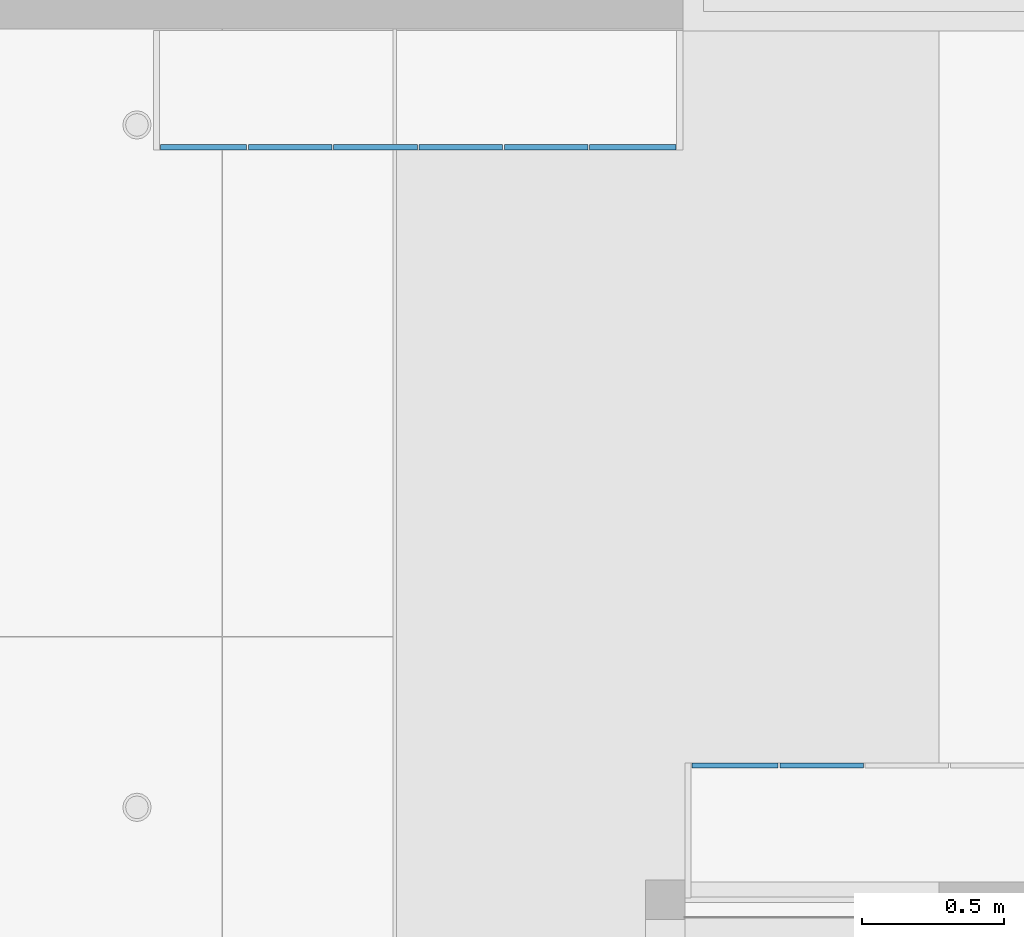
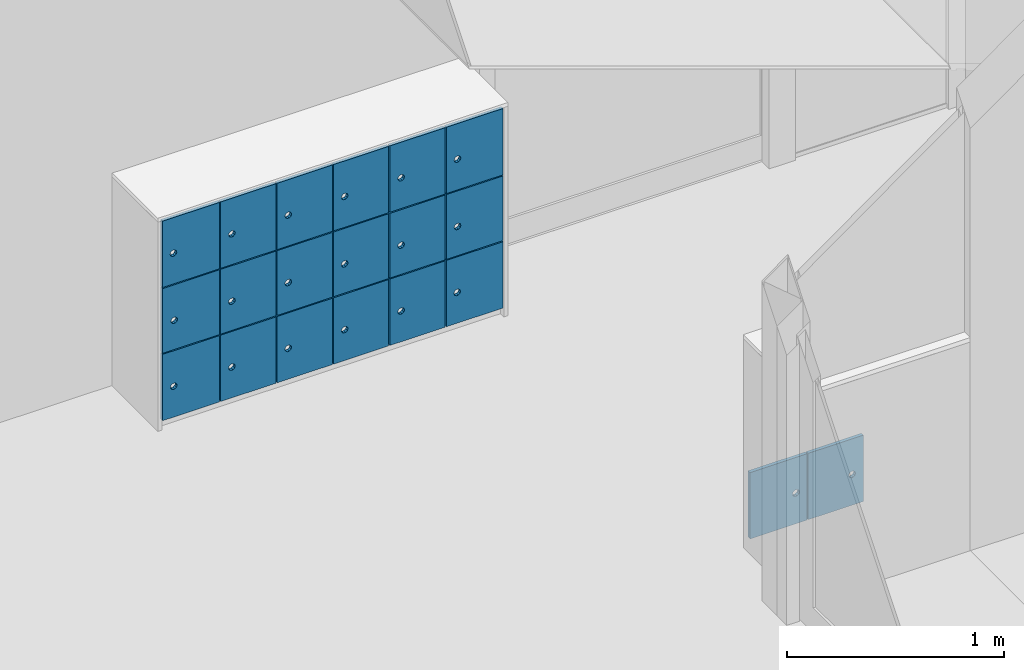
# One storey, part 146 of 347: 20 building element parts, 2 elements without a shape of their own.
"""IFC2X3 building model written with IfcOpenShell, lengths in millimetres."""

from ifc_helpers import new_model, entity, si_unit, converted_unit, derived_unit, money_unit, direction, frame, origin_with_axes, place, context, subcontext, project, spatial, faceted_brep, material, type_object, element, aggregate, save


model = new_model("IFC2X3")

# Units and contexts
model_context = context("Model", 3, precision=0.01, world=origin_with_axes(), true_north=direction((0.0, 1.0)))
plan_context = context("Plan", 3, precision=0.01, world=origin_with_axes(), true_north=direction((0.0, 1.0)))
body_context = subcontext(model_context, "Body", "Model", "MODEL_VIEW")
ifc_project = project(units=[si_unit("LENGTHUNIT", "METRE", prefix="MILLI"), si_unit("AREAUNIT", "SQUARE_METRE"), si_unit("VOLUMEUNIT", "CUBIC_METRE"), converted_unit("PLANEANGLEUNIT", "DEGREE", entity("IfcPlaneAngleMeasure", 0.0174532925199), si_unit("PLANEANGLEUNIT", "RADIAN"), dimensions=[0, 0, 0, 0, 0, 0, 0]), money_unit("EUR"), converted_unit("TIMEUNIT", "Year", entity("IfcTimeMeasure", 31556926.0), si_unit("TIMEUNIT", "SECOND"), dimensions=[0, 0, 1, 0, 0, 0, 0]), si_unit("MASSUNIT", "GRAM", prefix="KILO"), si_unit("THERMODYNAMICTEMPERATUREUNIT", "DEGREE_CELSIUS"), si_unit("LUMINOUSINTENSITYUNIT", "LUMEN"), si_unit("ENERGYUNIT", "JOULE", prefix="MEGA"), derived_unit("THERMALCONDUCTANCEUNIT", [(si_unit("POWERUNIT", "WATT"), 1), (si_unit("LENGTHUNIT", "METRE"), -1), (si_unit("THERMODYNAMICTEMPERATUREUNIT", "KELVIN"), -1)]), derived_unit("SPECIFICHEATCAPACITYUNIT", [(si_unit("ENERGYUNIT", "JOULE"), 1), (si_unit("MASSUNIT", "GRAM", prefix="KILO"), -1), (si_unit("THERMODYNAMICTEMPERATUREUNIT", "KELVIN"), -1)]), derived_unit("MASSDENSITYUNIT", [(si_unit("MASSUNIT", "GRAM", prefix="KILO"), 1), (si_unit("VOLUMEUNIT", "CUBIC_METRE"), -1)])], contexts=[model_context, plan_context])

# Site, building, storey
site_placement = place(None, origin_with_axes())
site = spatial("IfcSite", under=ifc_project, at=site_placement, Name="Site", CompositionType="ELEMENT")
building_placement = place(site_placement, origin_with_axes())
building = spatial("IfcBuilding", under=site, at=building_placement, Name="Naam gebouw", CompositionType="ELEMENT")
storey_placement = place(building_placement, origin_with_axes())
storey = spatial("IfcBuildingStorey", under=building, at=storey_placement, Name="begane grond", CompositionType="ELEMENT", Elevation=0.0)

# Beam, building element parts
beam_type_1 = type_object("IfcBeamType", Name="VI Garderobe 06 1812 x 1122", PredefinedType="BEAM")
beam_1_placement = place(storey_placement, frame((46213.0, 38537.5, 0.0), z_axis=(0.0, 0.0, 1.0), x_axis=(1.0, 0.0, 0.0)))
beam_1 = element("IfcBeam", 1, at=beam_1_placement, inside=storey, type_object=beam_type_1, Name="28_Balk-x", ObjectType="BEAM")
ifc_material = material(Name="Hout - Lockers")
building_element_part_1_placement = place(beam_1_placement, origin_with_axes())
building_element_part_1 = element("IfcBuildingElementPart", 2, at=building_element_part_1_placement, material=ifc_material, Name="Hout - Lockers", context=body_context, shape_type="Brep", body=[
    faceted_brep([(1534.0, 18.0, 1175.0), (1534.0, 18.0, 802.0), (1534.0, 0.0, 802.0), (1534.0, 0.0, 1175.0), (1837.0, 18.0, 1175.0), (1837.0, 18.0, 802.0), (1612.0, 18.0, 975.0), (1608.5623059, 18.0, 985.580134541), (1599.5623059, 18.0, 992.119017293), (1588.4376941, 18.0, 992.119017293), (1579.4376941, 18.0, 985.580134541), (1576.0, 18.0, 975.0), (1579.4376941, 18.0, 964.419865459), (1588.4376941, 18.0, 957.880982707), (1599.5623059, 18.0, 957.880982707), (1608.5623059, 18.0, 964.419865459), (1837.0, 0.0, 802.0), (1837.0, 0.0, 1175.0), (1612.0, 0.0, 975.0), (1608.5623059, 0.0, 964.419865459), (1599.5623059, 0.0, 957.880982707), (1588.4376941, 0.0, 957.880982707), (1579.4376941, 0.0, 964.419865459), (1576.0, 0.0, 975.0), (1579.4376941, 0.0, 985.580134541), (1588.4376941, 0.0, 992.119017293), (1599.5623059, 0.0, 992.119017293), (1608.5623059, 0.0, 985.580134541)], [[[0, 1, 2, 3]], [[0, 4, 5, 1], [6, 7, 8, 9, 10, 11, 12, 13, 14, 15]], [[1, 5, 16, 2]], [[3, 2, 16, 17], [18, 19, 20, 21, 22, 23, 24, 25, 26, 27]], [[4, 0, 3, 17]], [[5, 4, 17, 16]], [[7, 6, 18, 27]], [[8, 7, 27, 26]], [[9, 8, 26, 25]], [[10, 9, 25, 24]], [[11, 10, 24, 23]], [[12, 11, 23, 22]], [[13, 12, 22, 21]], [[14, 13, 21, 20]], [[15, 14, 20, 19]], [[6, 15, 19, 18]]]),
])
building_element_part_2_placement = place(beam_1_placement, origin_with_axes())
building_element_part_2 = element("IfcBuildingElementPart", 3, at=building_element_part_2_placement, material=ifc_material, Name="Hout - Lockers", context=body_context, shape_type="Brep", body=[
    faceted_brep([(1234.0, 18.0, 1175.0), (1234.0, 18.0, 802.0), (1234.0, 0.0, 802.0), (1234.0, 0.0, 1175.0), (1528.0, 18.0, 1175.0), (1528.0, 18.0, 802.0), (1312.0, 18.0, 975.0), (1308.5623059, 18.0, 985.580134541), (1299.5623059, 18.0, 992.119017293), (1288.4376941, 18.0, 992.119017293), (1279.4376941, 18.0, 985.580134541), (1276.0, 18.0, 975.0), (1279.4376941, 18.0, 964.419865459), (1288.4376941, 18.0, 957.880982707), (1299.5623059, 18.0, 957.880982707), (1308.5623059, 18.0, 964.419865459), (1528.0, 0.0, 802.0), (1528.0, 0.0, 1175.0), (1312.0, 0.0, 975.0), (1308.5623059, 0.0, 964.419865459), (1299.5623059, 0.0, 957.880982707), (1288.4376941, 0.0, 957.880982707), (1279.4376941, 0.0, 964.419865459), (1276.0, 0.0, 975.0), (1279.4376941, 0.0, 985.580134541), (1288.4376941, 0.0, 992.119017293), (1299.5623059, 0.0, 992.119017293), (1308.5623059, 0.0, 985.580134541)], [[[0, 1, 2, 3]], [[0, 4, 5, 1], [6, 7, 8, 9, 10, 11, 12, 13, 14, 15]], [[1, 5, 16, 2]], [[3, 2, 16, 17], [18, 19, 20, 21, 22, 23, 24, 25, 26, 27]], [[4, 0, 3, 17]], [[5, 4, 17, 16]], [[7, 6, 18, 27]], [[8, 7, 27, 26]], [[9, 8, 26, 25]], [[10, 9, 25, 24]], [[11, 10, 24, 23]], [[12, 11, 23, 22]], [[13, 12, 22, 21]], [[14, 13, 21, 20]], [[15, 14, 20, 19]], [[6, 15, 19, 18]]]),
])
building_element_part_3_placement = place(beam_1_placement, origin_with_axes())
building_element_part_3 = element("IfcBuildingElementPart", 4, at=building_element_part_3_placement, material=ifc_material, Name="Hout - Lockers", context=body_context, shape_type="Brep", body=[
    faceted_brep([(1534.0, 18.0, 796.0), (1534.0, 18.0, 432.0), (1534.0, 0.0, 432.0), (1534.0, 0.0, 796.0), (1837.0, 18.0, 796.0), (1837.0, 18.0, 432.0), (1612.0, 18.0, 596.0), (1608.5623059, 18.0, 606.580134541), (1599.5623059, 18.0, 613.119017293), (1588.4376941, 18.0, 613.119017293), (1579.4376941, 18.0, 606.580134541), (1576.0, 18.0, 596.0), (1579.4376941, 18.0, 585.419865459), (1588.4376941, 18.0, 578.880982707), (1599.5623059, 18.0, 578.880982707), (1608.5623059, 18.0, 585.419865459), (1837.0, 0.0, 432.0), (1837.0, 0.0, 796.0), (1612.0, 0.0, 596.0), (1608.5623059, 0.0, 585.419865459), (1599.5623059, 0.0, 578.880982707), (1588.4376941, 0.0, 578.880982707), (1579.4376941, 0.0, 585.419865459), (1576.0, 0.0, 596.0), (1579.4376941, 0.0, 606.580134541), (1588.4376941, 0.0, 613.119017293), (1599.5623059, 0.0, 613.119017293), (1608.5623059, 0.0, 606.580134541)], [[[0, 1, 2, 3]], [[0, 4, 5, 1], [6, 7, 8, 9, 10, 11, 12, 13, 14, 15]], [[1, 5, 16, 2]], [[3, 2, 16, 17], [18, 19, 20, 21, 22, 23, 24, 25, 26, 27]], [[4, 0, 3, 17]], [[5, 4, 17, 16]], [[7, 6, 18, 27]], [[8, 7, 27, 26]], [[9, 8, 26, 25]], [[10, 9, 25, 24]], [[11, 10, 24, 23]], [[12, 11, 23, 22]], [[13, 12, 22, 21]], [[14, 13, 21, 20]], [[15, 14, 20, 19]], [[6, 15, 19, 18]]]),
])
building_element_part_4_placement = place(beam_1_placement, origin_with_axes())
building_element_part_4 = element("IfcBuildingElementPart", 5, at=building_element_part_4_placement, material=ifc_material, Name="Hout - Lockers", context=body_context, shape_type="Brep", body=[
    faceted_brep([(1234.0, 18.0, 796.0), (1234.0, 18.0, 432.0), (1234.0, 0.0, 432.0), (1234.0, 0.0, 796.0), (1528.0, 18.0, 796.0), (1528.0, 18.0, 432.0), (1312.0, 18.0, 596.0), (1308.5623059, 18.0, 606.580134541), (1299.5623059, 18.0, 613.119017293), (1288.4376941, 18.0, 613.119017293), (1279.4376941, 18.0, 606.580134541), (1276.0, 18.0, 596.0), (1279.4376941, 18.0, 585.419865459), (1288.4376941, 18.0, 578.880982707), (1299.5623059, 18.0, 578.880982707), (1308.5623059, 18.0, 585.419865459), (1528.0, 0.0, 432.0), (1528.0, 0.0, 796.0), (1312.0, 0.0, 596.0), (1308.5623059, 0.0, 585.419865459), (1299.5623059, 0.0, 578.880982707), (1288.4376941, 0.0, 578.880982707), (1279.4376941, 0.0, 585.419865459), (1276.0, 0.0, 596.0), (1279.4376941, 0.0, 606.580134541), (1288.4376941, 0.0, 613.119017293), (1299.5623059, 0.0, 613.119017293), (1308.5623059, 0.0, 606.580134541)], [[[0, 1, 2, 3]], [[0, 4, 5, 1], [6, 7, 8, 9, 10, 11, 12, 13, 14, 15]], [[1, 5, 16, 2]], [[3, 2, 16, 17], [18, 19, 20, 21, 22, 23, 24, 25, 26, 27]], [[4, 0, 3, 17]], [[5, 4, 17, 16]], [[7, 6, 18, 27]], [[8, 7, 27, 26]], [[9, 8, 26, 25]], [[10, 9, 25, 24]], [[11, 10, 24, 23]], [[12, 11, 23, 22]], [[13, 12, 22, 21]], [[14, 13, 21, 20]], [[15, 14, 20, 19]], [[6, 15, 19, 18]]]),
])
building_element_part_5_placement = place(beam_1_placement, origin_with_axes())
building_element_part_5 = element("IfcBuildingElementPart", 6, at=building_element_part_5_placement, material=ifc_material, Name="Hout - Lockers", context=body_context, shape_type="Brep", body=[
    faceted_brep([(1534.0, 18.0, 426.0), (1534.0, 18.0, 53.0), (1534.0, 0.0, 53.0), (1534.0, 0.0, 426.0), (1837.0, 18.0, 426.0), (1837.0, 18.0, 53.0), (1610.5992825, 18.0, 226.009810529), (1607.1615884, 18.0, 236.58994507), (1598.1615884, 18.0, 243.128827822), (1587.0369766, 18.0, 243.128827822), (1578.0369766, 18.0, 236.58994507), (1574.5992825, 18.0, 226.009810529), (1578.0369766, 18.0, 215.429675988), (1587.0369766, 18.0, 208.890793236), (1598.1615884, 18.0, 208.890793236), (1607.1615884, 18.0, 215.429675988), (1837.0, 0.0, 53.0), (1837.0, 0.0, 426.0), (1610.5992825, 0.0, 226.009810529), (1607.1615884, 0.0, 215.429675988), (1598.1615884, 0.0, 208.890793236), (1587.0369766, 0.0, 208.890793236), (1578.0369766, 0.0, 215.429675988), (1574.5992825, 0.0, 226.009810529), (1578.0369766, 0.0, 236.58994507), (1587.0369766, 0.0, 243.128827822), (1598.1615884, 0.0, 243.128827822), (1607.1615884, 0.0, 236.58994507)], [[[0, 1, 2, 3]], [[0, 4, 5, 1], [6, 7, 8, 9, 10, 11, 12, 13, 14, 15]], [[1, 5, 16, 2]], [[3, 2, 16, 17], [18, 19, 20, 21, 22, 23, 24, 25, 26, 27]], [[4, 0, 3, 17]], [[5, 4, 17, 16]], [[7, 6, 18, 27]], [[8, 7, 27, 26]], [[9, 8, 26, 25]], [[10, 9, 25, 24]], [[11, 10, 24, 23]], [[12, 11, 23, 22]], [[13, 12, 22, 21]], [[14, 13, 21, 20]], [[15, 14, 20, 19]], [[6, 15, 19, 18]]]),
])
building_element_part_6_placement = place(beam_1_placement, origin_with_axes())
building_element_part_6 = element("IfcBuildingElementPart", 7, at=building_element_part_6_placement, material=ifc_material, Name="Hout - Lockers", context=body_context, shape_type="Brep", body=[
    faceted_brep([(1234.0, 18.0, 426.0), (1234.0, 18.0, 53.0), (1234.0, 0.0, 53.0), (1234.0, 0.0, 426.0), (1528.0, 18.0, 426.0), (1528.0, 18.0, 53.0), (1312.0, 18.0, 226.0), (1308.5623059, 18.0, 236.580134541), (1299.5623059, 18.0, 243.119017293), (1288.4376941, 18.0, 243.119017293), (1279.4376941, 18.0, 236.580134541), (1276.0, 18.0, 226.0), (1279.4376941, 18.0, 215.419865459), (1288.4376941, 18.0, 208.880982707), (1299.5623059, 18.0, 208.880982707), (1308.5623059, 18.0, 215.419865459), (1528.0, 0.0, 53.0), (1528.0, 0.0, 426.0), (1312.0, 0.0, 226.0), (1308.5623059, 0.0, 215.419865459), (1299.5623059, 0.0, 208.880982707), (1288.4376941, 0.0, 208.880982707), (1279.4376941, 0.0, 215.419865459), (1276.0, 0.0, 226.0), (1279.4376941, 0.0, 236.580134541), (1288.4376941, 0.0, 243.119017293), (1299.5623059, 0.0, 243.119017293), (1308.5623059, 0.0, 236.580134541)], [[[0, 1, 2, 3]], [[0, 4, 5, 1], [6, 7, 8, 9, 10, 11, 12, 13, 14, 15]], [[1, 5, 16, 2]], [[3, 2, 16, 17], [18, 19, 20, 21, 22, 23, 24, 25, 26, 27]], [[4, 0, 3, 17]], [[5, 4, 17, 16]], [[7, 6, 18, 27]], [[8, 7, 27, 26]], [[9, 8, 26, 25]], [[10, 9, 25, 24]], [[11, 10, 24, 23]], [[12, 11, 23, 22]], [[13, 12, 22, 21]], [[14, 13, 21, 20]], [[15, 14, 20, 19]], [[6, 15, 19, 18]]]),
])
building_element_part_7_placement = place(beam_1_placement, origin_with_axes())
building_element_part_7 = element("IfcBuildingElementPart", 8, at=building_element_part_7_placement, material=ifc_material, Name="Hout - Lockers", context=body_context, shape_type="Brep", body=[
    faceted_brep([(25.0, 18.0, 1175.0), (25.0, 18.0, 802.0), (25.0, 0.0, 802.0), (25.0, 0.0, 1175.0), (328.0, 18.0, 1175.0), (328.0, 18.0, 802.0), (101.202576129, 18.0, 975.016154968), (97.7648820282, 18.0, 985.596289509), (88.7648820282, 18.0, 992.135172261), (77.6402702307, 18.0, 992.135172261), (68.6402702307, 18.0, 985.596289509), (65.2025761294, 18.0, 975.016154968), (68.6402702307, 18.0, 964.436020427), (77.6402702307, 18.0, 957.897137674), (88.7648820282, 18.0, 957.897137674), (97.7648820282, 18.0, 964.436020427), (328.0, 0.0, 802.0), (328.0, 0.0, 1175.0), (101.202576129, 0.0, 975.016154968), (97.7648820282, 0.0, 964.436020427), (88.7648820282, 0.0, 957.897137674), (77.6402702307, 0.0, 957.897137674), (68.6402702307, 0.0, 964.436020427), (65.2025761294, 0.0, 975.016154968), (68.6402702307, 0.0, 985.596289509), (77.6402702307, 0.0, 992.135172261), (88.7648820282, 0.0, 992.135172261), (97.7648820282, 0.0, 985.596289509)], [[[0, 1, 2, 3]], [[0, 4, 5, 1], [6, 7, 8, 9, 10, 11, 12, 13, 14, 15]], [[1, 5, 16, 2]], [[3, 2, 16, 17], [18, 19, 20, 21, 22, 23, 24, 25, 26, 27]], [[4, 0, 3, 17]], [[5, 4, 17, 16]], [[7, 6, 18, 27]], [[8, 7, 27, 26]], [[9, 8, 26, 25]], [[10, 9, 25, 24]], [[11, 10, 24, 23]], [[12, 11, 23, 22]], [[13, 12, 22, 21]], [[14, 13, 21, 20]], [[15, 14, 20, 19]], [[6, 15, 19, 18]]]),
])
building_element_part_8_placement = place(beam_1_placement, origin_with_axes())
building_element_part_8 = element("IfcBuildingElementPart", 9, at=building_element_part_8_placement, material=ifc_material, Name="Hout - Lockers", context=body_context, shape_type="Brep", body=[
    faceted_brep([(25.0, 18.0, 796.0), (25.0, 18.0, 432.0), (25.0, 0.0, 432.0), (25.0, 0.0, 796.0), (328.0, 18.0, 796.0), (328.0, 18.0, 432.0), (69.5601698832, 18.0, 596.032777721), (72.9978639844, 18.0, 585.45264318), (81.9978639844, 18.0, 578.913760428), (93.1224757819, 18.0, 578.913760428), (102.122475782, 18.0, 585.45264318), (105.560169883, 18.0, 596.032777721), (102.122475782, 18.0, 606.612912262), (93.1224757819, 18.0, 613.151795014), (81.9978639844, 18.0, 613.151795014), (72.9978639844, 18.0, 606.612912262), (328.0, 0.0, 432.0), (328.0, 0.0, 796.0), (69.5601698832, 0.0, 596.032777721), (72.9978639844, 0.0, 606.612912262), (81.9978639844, 0.0, 613.151795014), (93.1224757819, 0.0, 613.151795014), (102.122475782, 0.0, 606.612912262), (105.560169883, 0.0, 596.032777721), (102.122475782, 0.0, 585.45264318), (93.1224757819, 0.0, 578.913760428), (81.9978639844, 0.0, 578.913760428), (72.9978639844, 0.0, 585.45264318)], [[[0, 1, 2, 3]], [[0, 4, 5, 1], [6, 7, 8, 9, 10, 11, 12, 13, 14, 15]], [[1, 5, 16, 2]], [[3, 2, 16, 17], [18, 19, 20, 21, 22, 23, 24, 25, 26, 27]], [[4, 0, 3, 17]], [[5, 4, 17, 16]], [[7, 6, 18, 27]], [[8, 7, 27, 26]], [[9, 8, 26, 25]], [[10, 9, 25, 24]], [[11, 10, 24, 23]], [[12, 11, 23, 22]], [[13, 12, 22, 21]], [[14, 13, 21, 20]], [[15, 14, 20, 19]], [[6, 15, 19, 18]]]),
])
building_element_part_9_placement = place(beam_1_placement, origin_with_axes())
building_element_part_9 = element("IfcBuildingElementPart", 10, at=building_element_part_9_placement, material=ifc_material, Name="Hout - Lockers", context=body_context, shape_type="Brep", body=[
    faceted_brep([(25.0, 18.0, 426.0), (25.0, 18.0, 53.0), (25.0, 0.0, 53.0), (25.0, 0.0, 426.0), (328.0, 18.0, 426.0), (328.0, 18.0, 53.0), (103.0, 18.0, 226.0), (99.5623058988, 18.0, 236.580134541), (90.5623058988, 18.0, 243.119017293), (79.4376941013, 18.0, 243.119017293), (70.4376941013, 18.0, 236.580134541), (67.0, 18.0, 226.0), (70.4376941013, 18.0, 215.419865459), (79.4376941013, 18.0, 208.880982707), (90.5623058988, 18.0, 208.880982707), (99.5623058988, 18.0, 215.419865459), (328.0, 0.0, 53.0), (328.0, 0.0, 426.0), (103.0, 0.0, 226.0), (99.5623058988, 0.0, 215.419865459), (90.5623058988, 0.0, 208.880982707), (79.4376941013, 0.0, 208.880982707), (70.4376941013, 0.0, 215.419865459), (67.0, 0.0, 226.0), (70.4376941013, 0.0, 236.580134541), (79.4376941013, 0.0, 243.119017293), (90.5623058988, 0.0, 243.119017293), (99.5623058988, 0.0, 236.580134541)], [[[0, 1, 2, 3]], [[0, 4, 5, 1], [6, 7, 8, 9, 10, 11, 12, 13, 14, 15]], [[1, 5, 16, 2]], [[3, 2, 16, 17], [18, 19, 20, 21, 22, 23, 24, 25, 26, 27]], [[4, 0, 3, 17]], [[5, 4, 17, 16]], [[7, 6, 18, 27]], [[8, 7, 27, 26]], [[9, 8, 26, 25]], [[10, 9, 25, 24]], [[11, 10, 24, 23]], [[12, 11, 23, 22]], [[13, 12, 22, 21]], [[14, 13, 21, 20]], [[15, 14, 20, 19]], [[6, 15, 19, 18]]]),
])
building_element_part_10_placement = place(beam_1_placement, origin_with_axes())
building_element_part_10 = element("IfcBuildingElementPart", 11, at=building_element_part_10_placement, material=ifc_material, Name="Hout - Lockers", context=body_context, shape_type="Brep", body=[
    faceted_brep([(934.0, 18.0, 1175.0), (934.0, 18.0, 802.0), (934.0, 0.0, 802.0), (934.0, 0.0, 1175.0), (1228.0, 18.0, 1175.0), (1228.0, 18.0, 802.0), (1012.0, 18.0, 975.0), (1008.5623059, 18.0, 985.580134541), (999.562305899, 18.0, 992.119017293), (988.437694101, 18.0, 992.119017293), (979.437694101, 18.0, 985.580134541), (976.0, 18.0, 975.0), (979.437694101, 18.0, 964.419865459), (988.437694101, 18.0, 957.880982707), (999.562305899, 18.0, 957.880982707), (1008.5623059, 18.0, 964.419865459), (1228.0, 0.0, 802.0), (1228.0, 0.0, 1175.0), (1012.0, 0.0, 975.0), (1008.5623059, 0.0, 964.419865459), (999.562305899, 0.0, 957.880982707), (988.437694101, 0.0, 957.880982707), (979.437694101, 0.0, 964.419865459), (976.0, 0.0, 975.0), (979.437694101, 0.0, 985.580134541), (988.437694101, 0.0, 992.119017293), (999.562305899, 0.0, 992.119017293), (1008.5623059, 0.0, 985.580134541)], [[[0, 1, 2, 3]], [[0, 4, 5, 1], [6, 7, 8, 9, 10, 11, 12, 13, 14, 15]], [[1, 5, 16, 2]], [[3, 2, 16, 17], [18, 19, 20, 21, 22, 23, 24, 25, 26, 27]], [[4, 0, 3, 17]], [[5, 4, 17, 16]], [[7, 6, 18, 27]], [[8, 7, 27, 26]], [[9, 8, 26, 25]], [[10, 9, 25, 24]], [[11, 10, 24, 23]], [[12, 11, 23, 22]], [[13, 12, 22, 21]], [[14, 13, 21, 20]], [[15, 14, 20, 19]], [[6, 15, 19, 18]]]),
])
building_element_part_11_placement = place(beam_1_placement, origin_with_axes())
building_element_part_11 = element("IfcBuildingElementPart", 12, at=building_element_part_11_placement, material=ifc_material, Name="Hout - Lockers", context=body_context, shape_type="Brep", body=[
    faceted_brep([(934.0, 18.0, 796.0), (934.0, 18.0, 432.0), (934.0, 0.0, 432.0), (934.0, 0.0, 796.0), (1228.0, 18.0, 796.0), (1228.0, 18.0, 432.0), (1012.0, 18.0, 596.0), (1008.5623059, 18.0, 606.580134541), (999.562305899, 18.0, 613.119017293), (988.437694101, 18.0, 613.119017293), (979.437694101, 18.0, 606.580134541), (976.0, 18.0, 596.0), (979.437694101, 18.0, 585.419865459), (988.437694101, 18.0, 578.880982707), (999.562305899, 18.0, 578.880982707), (1008.5623059, 18.0, 585.419865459), (1228.0, 0.0, 432.0), (1228.0, 0.0, 796.0), (1012.0, 0.0, 596.0), (1008.5623059, 0.0, 585.419865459), (999.562305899, 0.0, 578.880982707), (988.437694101, 0.0, 578.880982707), (979.437694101, 0.0, 585.419865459), (976.0, 0.0, 596.0), (979.437694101, 0.0, 606.580134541), (988.437694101, 0.0, 613.119017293), (999.562305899, 0.0, 613.119017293), (1008.5623059, 0.0, 606.580134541)], [[[0, 1, 2, 3]], [[0, 4, 5, 1], [6, 7, 8, 9, 10, 11, 12, 13, 14, 15]], [[1, 5, 16, 2]], [[3, 2, 16, 17], [18, 19, 20, 21, 22, 23, 24, 25, 26, 27]], [[4, 0, 3, 17]], [[5, 4, 17, 16]], [[7, 6, 18, 27]], [[8, 7, 27, 26]], [[9, 8, 26, 25]], [[10, 9, 25, 24]], [[11, 10, 24, 23]], [[12, 11, 23, 22]], [[13, 12, 22, 21]], [[14, 13, 21, 20]], [[15, 14, 20, 19]], [[6, 15, 19, 18]]]),
])
building_element_part_12_placement = place(beam_1_placement, origin_with_axes())
building_element_part_12 = element("IfcBuildingElementPart", 13, at=building_element_part_12_placement, material=ifc_material, Name="Hout - Lockers", context=body_context, shape_type="Brep", body=[
    faceted_brep([(934.0, 18.0, 426.0), (934.0, 18.0, 53.0), (934.0, 0.0, 53.0), (934.0, 0.0, 426.0), (1228.0, 18.0, 426.0), (1228.0, 18.0, 53.0), (1012.0, 18.0, 226.0), (1008.5623059, 18.0, 236.580134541), (999.562305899, 18.0, 243.119017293), (988.437694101, 18.0, 243.119017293), (979.437694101, 18.0, 236.580134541), (976.0, 18.0, 226.0), (979.437694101, 18.0, 215.419865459), (988.437694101, 18.0, 208.880982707), (999.562305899, 18.0, 208.880982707), (1008.5623059, 18.0, 215.419865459), (1228.0, 0.0, 53.0), (1228.0, 0.0, 426.0), (1012.0, 0.0, 226.0), (1008.5623059, 0.0, 215.419865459), (999.562305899, 0.0, 208.880982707), (988.437694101, 0.0, 208.880982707), (979.437694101, 0.0, 215.419865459), (976.0, 0.0, 226.0), (979.437694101, 0.0, 236.580134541), (988.437694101, 0.0, 243.119017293), (999.562305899, 0.0, 243.119017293), (1008.5623059, 0.0, 236.580134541)], [[[0, 1, 2, 3]], [[0, 4, 5, 1], [6, 7, 8, 9, 10, 11, 12, 13, 14, 15]], [[1, 5, 16, 2]], [[3, 2, 16, 17], [18, 19, 20, 21, 22, 23, 24, 25, 26, 27]], [[4, 0, 3, 17]], [[5, 4, 17, 16]], [[7, 6, 18, 27]], [[8, 7, 27, 26]], [[9, 8, 26, 25]], [[10, 9, 25, 24]], [[11, 10, 24, 23]], [[12, 11, 23, 22]], [[13, 12, 22, 21]], [[14, 13, 21, 20]], [[15, 14, 20, 19]], [[6, 15, 19, 18]]]),
])
building_element_part_13_placement = place(beam_1_placement, origin_with_axes())
building_element_part_13 = element("IfcBuildingElementPart", 14, at=building_element_part_13_placement, material=ifc_material, Name="Hout - Lockers", context=body_context, shape_type="Brep", body=[
    faceted_brep([(634.0, 18.0, 1175.0), (634.0, 18.0, 802.0), (634.0, 0.0, 802.0), (634.0, 0.0, 1175.0), (928.0, 18.0, 1175.0), (928.0, 18.0, 802.0), (712.0, 18.0, 975.0), (708.562305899, 18.0, 985.580134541), (699.562305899, 18.0, 992.119017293), (688.437694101, 18.0, 992.119017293), (679.437694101, 18.0, 985.580134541), (676.0, 18.0, 975.0), (679.437694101, 18.0, 964.419865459), (688.437694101, 18.0, 957.880982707), (699.562305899, 18.0, 957.880982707), (708.562305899, 18.0, 964.419865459), (928.0, 0.0, 802.0), (928.0, 0.0, 1175.0), (712.0, 0.0, 975.0), (708.562305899, 0.0, 964.419865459), (699.562305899, 0.0, 957.880982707), (688.437694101, 0.0, 957.880982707), (679.437694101, 0.0, 964.419865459), (676.0, 0.0, 975.0), (679.437694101, 0.0, 985.580134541), (688.437694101, 0.0, 992.119017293), (699.562305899, 0.0, 992.119017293), (708.562305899, 0.0, 985.580134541)], [[[0, 1, 2, 3]], [[0, 4, 5, 1], [6, 7, 8, 9, 10, 11, 12, 13, 14, 15]], [[1, 5, 16, 2]], [[3, 2, 16, 17], [18, 19, 20, 21, 22, 23, 24, 25, 26, 27]], [[4, 0, 3, 17]], [[5, 4, 17, 16]], [[7, 6, 18, 27]], [[8, 7, 27, 26]], [[9, 8, 26, 25]], [[10, 9, 25, 24]], [[11, 10, 24, 23]], [[12, 11, 23, 22]], [[13, 12, 22, 21]], [[14, 13, 21, 20]], [[15, 14, 20, 19]], [[6, 15, 19, 18]]]),
])
building_element_part_14_placement = place(beam_1_placement, origin_with_axes())
building_element_part_14 = element("IfcBuildingElementPart", 15, at=building_element_part_14_placement, material=ifc_material, Name="Hout - Lockers", context=body_context, shape_type="Brep", body=[
    faceted_brep([(634.0, 18.0, 796.0), (634.0, 18.0, 432.0), (634.0, 0.0, 432.0), (634.0, 0.0, 796.0), (928.0, 18.0, 796.0), (928.0, 18.0, 432.0), (712.0, 18.0, 596.0), (708.562305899, 18.0, 606.580134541), (699.562305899, 18.0, 613.119017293), (688.437694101, 18.0, 613.119017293), (679.437694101, 18.0, 606.580134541), (676.0, 18.0, 596.0), (679.437694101, 18.0, 585.419865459), (688.437694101, 18.0, 578.880982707), (699.562305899, 18.0, 578.880982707), (708.562305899, 18.0, 585.419865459), (928.0, 0.0, 432.0), (928.0, 0.0, 796.0), (712.0, 0.0, 596.0), (708.562305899, 0.0, 585.419865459), (699.562305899, 0.0, 578.880982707), (688.437694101, 0.0, 578.880982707), (679.437694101, 0.0, 585.419865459), (676.0, 0.0, 596.0), (679.437694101, 0.0, 606.580134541), (688.437694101, 0.0, 613.119017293), (699.562305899, 0.0, 613.119017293), (708.562305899, 0.0, 606.580134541)], [[[0, 1, 2, 3]], [[0, 4, 5, 1], [6, 7, 8, 9, 10, 11, 12, 13, 14, 15]], [[1, 5, 16, 2]], [[3, 2, 16, 17], [18, 19, 20, 21, 22, 23, 24, 25, 26, 27]], [[4, 0, 3, 17]], [[5, 4, 17, 16]], [[7, 6, 18, 27]], [[8, 7, 27, 26]], [[9, 8, 26, 25]], [[10, 9, 25, 24]], [[11, 10, 24, 23]], [[12, 11, 23, 22]], [[13, 12, 22, 21]], [[14, 13, 21, 20]], [[15, 14, 20, 19]], [[6, 15, 19, 18]]]),
])
building_element_part_15_placement = place(beam_1_placement, origin_with_axes())
building_element_part_15 = element("IfcBuildingElementPart", 16, at=building_element_part_15_placement, material=ifc_material, Name="Hout - Lockers", context=body_context, shape_type="Brep", body=[
    faceted_brep([(634.0, 18.0, 426.0), (634.0, 18.0, 53.0), (634.0, 0.0, 53.0), (634.0, 0.0, 426.0), (928.0, 18.0, 426.0), (928.0, 18.0, 53.0), (712.0, 18.0, 226.0), (708.562305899, 18.0, 236.580134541), (699.562305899, 18.0, 243.119017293), (688.437694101, 18.0, 243.119017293), (679.437694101, 18.0, 236.580134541), (676.0, 18.0, 226.0), (679.437694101, 18.0, 215.419865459), (688.437694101, 18.0, 208.880982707), (699.562305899, 18.0, 208.880982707), (708.562305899, 18.0, 215.419865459), (928.0, 0.0, 53.0), (928.0, 0.0, 426.0), (712.0, 0.0, 226.0), (708.562305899, 0.0, 215.419865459), (699.562305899, 0.0, 208.880982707), (688.437694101, 0.0, 208.880982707), (679.437694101, 0.0, 215.419865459), (676.0, 0.0, 226.0), (679.437694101, 0.0, 236.580134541), (688.437694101, 0.0, 243.119017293), (699.562305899, 0.0, 243.119017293), (708.562305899, 0.0, 236.580134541)], [[[0, 1, 2, 3]], [[0, 4, 5, 1], [6, 7, 8, 9, 10, 11, 12, 13, 14, 15]], [[1, 5, 16, 2]], [[3, 2, 16, 17], [18, 19, 20, 21, 22, 23, 24, 25, 26, 27]], [[4, 0, 3, 17]], [[5, 4, 17, 16]], [[7, 6, 18, 27]], [[8, 7, 27, 26]], [[9, 8, 26, 25]], [[10, 9, 25, 24]], [[11, 10, 24, 23]], [[12, 11, 23, 22]], [[13, 12, 22, 21]], [[14, 13, 21, 20]], [[15, 14, 20, 19]], [[6, 15, 19, 18]]]),
])
building_element_part_16_placement = place(beam_1_placement, origin_with_axes())
building_element_part_16 = element("IfcBuildingElementPart", 17, at=building_element_part_16_placement, material=ifc_material, Name="Hout - Lockers", context=body_context, shape_type="Brep", body=[
    faceted_brep([(334.0, 18.0, 1175.0), (334.0, 18.0, 802.0), (334.0, 0.0, 802.0), (334.0, 0.0, 1175.0), (628.0, 18.0, 1175.0), (628.0, 18.0, 802.0), (412.0, 18.0, 975.0), (408.562305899, 18.0, 985.580134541), (399.562305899, 18.0, 992.119017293), (388.437694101, 18.0, 992.119017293), (379.437694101, 18.0, 985.580134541), (376.0, 18.0, 975.0), (379.437694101, 18.0, 964.419865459), (388.437694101, 18.0, 957.880982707), (399.562305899, 18.0, 957.880982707), (408.562305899, 18.0, 964.419865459), (628.0, 0.0, 802.0), (628.0, 0.0, 1175.0), (412.0, 0.0, 975.0), (408.562305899, 0.0, 964.419865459), (399.562305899, 0.0, 957.880982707), (388.437694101, 0.0, 957.880982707), (379.437694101, 0.0, 964.419865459), (376.0, 0.0, 975.0), (379.437694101, 0.0, 985.580134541), (388.437694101, 0.0, 992.119017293), (399.562305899, 0.0, 992.119017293), (408.562305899, 0.0, 985.580134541)], [[[0, 1, 2, 3]], [[0, 4, 5, 1], [6, 7, 8, 9, 10, 11, 12, 13, 14, 15]], [[1, 5, 16, 2]], [[3, 2, 16, 17], [18, 19, 20, 21, 22, 23, 24, 25, 26, 27]], [[4, 0, 3, 17]], [[5, 4, 17, 16]], [[7, 6, 18, 27]], [[8, 7, 27, 26]], [[9, 8, 26, 25]], [[10, 9, 25, 24]], [[11, 10, 24, 23]], [[12, 11, 23, 22]], [[13, 12, 22, 21]], [[14, 13, 21, 20]], [[15, 14, 20, 19]], [[6, 15, 19, 18]]]),
])
building_element_part_17_placement = place(beam_1_placement, origin_with_axes())
building_element_part_17 = element("IfcBuildingElementPart", 18, at=building_element_part_17_placement, material=ifc_material, Name="Hout - Lockers", context=body_context, shape_type="Brep", body=[
    faceted_brep([(334.0, 18.0, 796.0), (334.0, 18.0, 432.0), (334.0, 0.0, 432.0), (334.0, 0.0, 796.0), (628.0, 18.0, 796.0), (628.0, 18.0, 432.0), (412.0, 18.0, 596.0), (408.562305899, 18.0, 606.580134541), (399.562305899, 18.0, 613.119017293), (388.437694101, 18.0, 613.119017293), (379.437694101, 18.0, 606.580134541), (376.0, 18.0, 596.0), (379.437694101, 18.0, 585.419865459), (388.437694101, 18.0, 578.880982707), (399.562305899, 18.0, 578.880982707), (408.562305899, 18.0, 585.419865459), (628.0, 0.0, 432.0), (628.0, 0.0, 796.0), (412.0, 0.0, 596.0), (408.562305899, 0.0, 585.419865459), (399.562305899, 0.0, 578.880982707), (388.437694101, 0.0, 578.880982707), (379.437694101, 0.0, 585.419865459), (376.0, 0.0, 596.0), (379.437694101, 0.0, 606.580134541), (388.437694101, 0.0, 613.119017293), (399.562305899, 0.0, 613.119017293), (408.562305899, 0.0, 606.580134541)], [[[0, 1, 2, 3]], [[0, 4, 5, 1], [6, 7, 8, 9, 10, 11, 12, 13, 14, 15]], [[1, 5, 16, 2]], [[3, 2, 16, 17], [18, 19, 20, 21, 22, 23, 24, 25, 26, 27]], [[4, 0, 3, 17]], [[5, 4, 17, 16]], [[7, 6, 18, 27]], [[8, 7, 27, 26]], [[9, 8, 26, 25]], [[10, 9, 25, 24]], [[11, 10, 24, 23]], [[12, 11, 23, 22]], [[13, 12, 22, 21]], [[14, 13, 21, 20]], [[15, 14, 20, 19]], [[6, 15, 19, 18]]]),
])
building_element_part_18_placement = place(beam_1_placement, origin_with_axes())
building_element_part_18 = element("IfcBuildingElementPart", 19, at=building_element_part_18_placement, material=ifc_material, Name="Hout - Lockers", context=body_context, shape_type="Brep", body=[
    faceted_brep([(334.0, 18.0, 426.0), (334.0, 18.0, 53.0), (334.0, 0.0, 53.0), (334.0, 0.0, 426.0), (628.0, 18.0, 426.0), (628.0, 18.0, 53.0), (412.0, 18.0, 226.0), (408.562305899, 18.0, 236.580134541), (399.562305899, 18.0, 243.119017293), (388.437694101, 18.0, 243.119017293), (379.437694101, 18.0, 236.580134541), (376.0, 18.0, 226.0), (379.437694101, 18.0, 215.419865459), (388.437694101, 18.0, 208.880982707), (399.562305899, 18.0, 208.880982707), (408.562305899, 18.0, 215.419865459), (628.0, 0.0, 53.0), (628.0, 0.0, 426.0), (412.0, 0.0, 226.0), (408.562305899, 0.0, 215.419865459), (399.562305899, 0.0, 208.880982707), (388.437694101, 0.0, 208.880982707), (379.437694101, 0.0, 215.419865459), (376.0, 0.0, 226.0), (379.437694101, 0.0, 236.580134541), (388.437694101, 0.0, 243.119017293), (399.562305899, 0.0, 243.119017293), (408.562305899, 0.0, 236.580134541)], [[[0, 1, 2, 3]], [[0, 4, 5, 1], [6, 7, 8, 9, 10, 11, 12, 13, 14, 15]], [[1, 5, 16, 2]], [[3, 2, 16, 17], [18, 19, 20, 21, 22, 23, 24, 25, 26, 27]], [[4, 0, 3, 17]], [[5, 4, 17, 16]], [[7, 6, 18, 27]], [[8, 7, 27, 26]], [[9, 8, 26, 25]], [[10, 9, 25, 24]], [[11, 10, 24, 23]], [[12, 11, 23, 22]], [[13, 12, 22, 21]], [[14, 13, 21, 20]], [[15, 14, 20, 19]], [[6, 15, 19, 18]]]),
])
aggregate(beam_1, [building_element_part_1, building_element_part_2, building_element_part_3, building_element_part_4, building_element_part_5, building_element_part_6, building_element_part_7, building_element_part_8, building_element_part_9, building_element_part_10, building_element_part_11, building_element_part_12, building_element_part_13, building_element_part_14, building_element_part_15, building_element_part_16, building_element_part_17, building_element_part_18])

beam_type_2 = type_object("IfcBeamType", Name="VI Garderobe 05 2412 x 1122", PredefinedType="BEAM")
beam_2_placement = place(storey_placement, frame((50519.0, 36380.5000133, 0.0), z_axis=(0.0, 0.0, 1.0), x_axis=(-1.0, 0.0, 0.0)))
beam_2 = element("IfcBeam", 20, at=beam_2_placement, inside=storey, type_object=beam_type_2, Name="28_Balk-x", ObjectType="BEAM")
building_element_part_19_placement = place(beam_2_placement, origin_with_axes())
building_element_part_19 = element("IfcBuildingElementPart", 21, at=building_element_part_19_placement, material=ifc_material, Name="Hout - Lockers", context=body_context, shape_type="Brep", body=[
    faceted_brep([(2109.0, 18.0, 426.0), (2109.0, 18.0, 53.0), (2109.0, 0.0, 53.0), (2109.0, 0.0, 426.0), (2412.0, 18.0, 426.0), (2412.0, 18.0, 53.0), (2185.5992825, 18.0, 226.009810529), (2182.1615884, 18.0, 236.58994507), (2173.1615884, 18.0, 243.128827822), (2162.0369766, 18.0, 243.128827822), (2153.0369766, 18.0, 236.58994507), (2149.5992825, 18.0, 226.009810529), (2153.0369766, 18.0, 215.429675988), (2162.0369766, 18.0, 208.890793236), (2173.1615884, 18.0, 208.890793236), (2182.1615884, 18.0, 215.429675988), (2412.0, 0.0, 53.0), (2412.0, 0.0, 426.0), (2185.5992825, 0.0, 226.009810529), (2182.1615884, 0.0, 215.429675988), (2173.1615884, 0.0, 208.890793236), (2162.0369766, 0.0, 208.890793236), (2153.0369766, 0.0, 215.429675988), (2149.5992825, 0.0, 226.009810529), (2153.0369766, 0.0, 236.58994507), (2162.0369766, 0.0, 243.128827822), (2173.1615884, 0.0, 243.128827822), (2182.1615884, 0.0, 236.58994507)], [[[0, 1, 2, 3]], [[0, 4, 5, 1], [6, 7, 8, 9, 10, 11, 12, 13, 14, 15]], [[1, 5, 16, 2]], [[3, 2, 16, 17], [18, 19, 20, 21, 22, 23, 24, 25, 26, 27]], [[4, 0, 3, 17]], [[5, 4, 17, 16]], [[7, 6, 18, 27]], [[8, 7, 27, 26]], [[9, 8, 26, 25]], [[10, 9, 25, 24]], [[11, 10, 24, 23]], [[12, 11, 23, 22]], [[13, 12, 22, 21]], [[14, 13, 21, 20]], [[15, 14, 20, 19]], [[6, 15, 19, 18]]]),
])
building_element_part_20_placement = place(beam_2_placement, origin_with_axes())
building_element_part_20 = element("IfcBuildingElementPart", 22, at=building_element_part_20_placement, material=ifc_material, Name="Hout - Lockers", context=body_context, shape_type="Brep", body=[
    faceted_brep([(1809.0, 18.0, 426.0), (1809.0, 18.0, 53.0), (1809.0, 0.0, 53.0), (1809.0, 0.0, 426.0), (2103.0, 18.0, 426.0), (2103.0, 18.0, 53.0), (1887.0, 18.0, 226.0), (1883.5623059, 18.0, 236.580134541), (1874.5623059, 18.0, 243.119017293), (1863.4376941, 18.0, 243.119017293), (1854.4376941, 18.0, 236.580134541), (1851.0, 18.0, 226.0), (1854.4376941, 18.0, 215.419865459), (1863.4376941, 18.0, 208.880982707), (1874.5623059, 18.0, 208.880982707), (1883.5623059, 18.0, 215.419865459), (2103.0, 0.0, 53.0), (2103.0, 0.0, 426.0), (1887.0, 0.0, 226.0), (1883.5623059, 0.0, 215.419865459), (1874.5623059, 0.0, 208.880982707), (1863.4376941, 0.0, 208.880982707), (1854.4376941, 0.0, 215.419865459), (1851.0, 0.0, 226.0), (1854.4376941, 0.0, 236.580134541), (1863.4376941, 0.0, 243.119017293), (1874.5623059, 0.0, 243.119017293), (1883.5623059, 0.0, 236.580134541)], [[[0, 1, 2, 3]], [[0, 4, 5, 1], [6, 7, 8, 9, 10, 11, 12, 13, 14, 15]], [[1, 5, 16, 2]], [[3, 2, 16, 17], [18, 19, 20, 21, 22, 23, 24, 25, 26, 27]], [[4, 0, 3, 17]], [[5, 4, 17, 16]], [[7, 6, 18, 27]], [[8, 7, 27, 26]], [[9, 8, 26, 25]], [[10, 9, 25, 24]], [[11, 10, 24, 23]], [[12, 11, 23, 22]], [[13, 12, 22, 21]], [[14, 13, 21, 20]], [[15, 14, 20, 19]], [[6, 15, 19, 18]]]),
])
aggregate(beam_2, [building_element_part_19, building_element_part_20])

save(model, "model.ifc")
